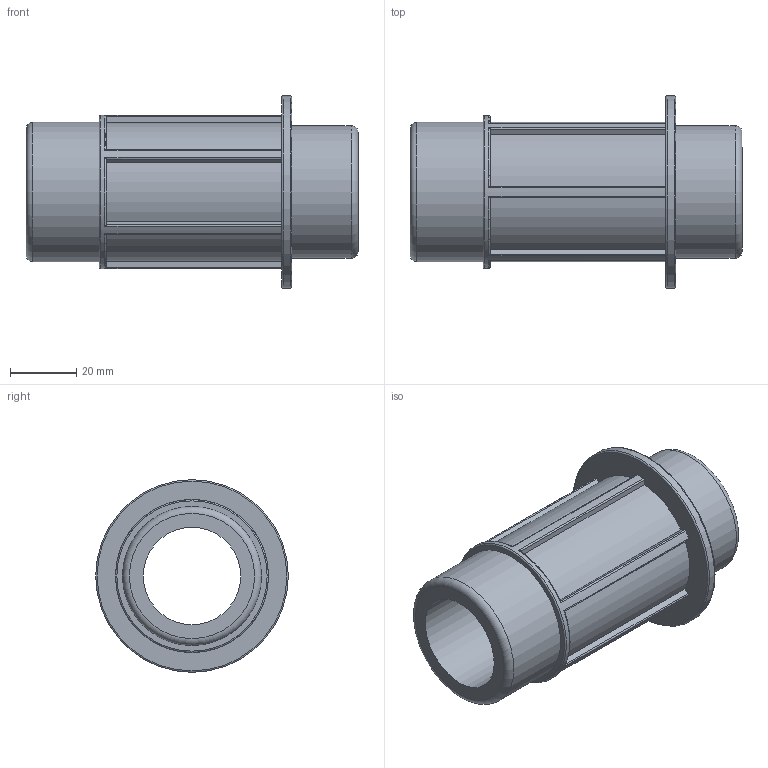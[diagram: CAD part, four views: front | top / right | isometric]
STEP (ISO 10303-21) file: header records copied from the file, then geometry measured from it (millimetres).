
FILE_DESCRIPTION(/* description */ ('PLASSON THREADED MALE ADAPTOR 40-1.1/4"'),/* implementation_level */ '2;1');
FILE_NAME(/* name */ 'C:\Dropbox\KIMPROJECTS-Inventor\99-16-3568-Processing\Silver+MF ISRAEL\078901\078901040013.ipt.stp',/* time_stamp */ '2018-04-09T13:01:57+03:00',/* author */ ('KIM'),/* organization */ (''),/* preprocessor_version */ 'ST-DEVELOPER v15.6',/* originating_system */ 'Autodesk Inventor 2015',/* authorisation */ '');
FILE_SCHEMA (('AUTOMOTIVE_DESIGN { 1 0 10303 214 3 1 1 }'));
Length unit declared in the file: millimetre
Products named in the file (1): 078901040013
Bounding box: 100 x 58 x 58 mm (x, y, z)
Volume: 74269.1 mm3; surface area: 27755.2 mm2
Topology: 1 solids, 1 shells, 57 faces, 151 edges, 99 vertices
Faces by surface type: cylinder 23, plane 23, torus 11
Full cylindrical faces by diameter (mm): 29.337 x1, 40 x1, 41.91 x1, 46.101 x1, 58 x1
Entity records: 1894 total; most frequent: CARTESIAN_POINT 488, DIRECTION 288, ORIENTED_EDGE 280, EDGE_CURVE 140, AXIS2_PLACEMENT_3D 114, VERTEX_POINT 98, EDGE_LOOP 72, LINE 60
